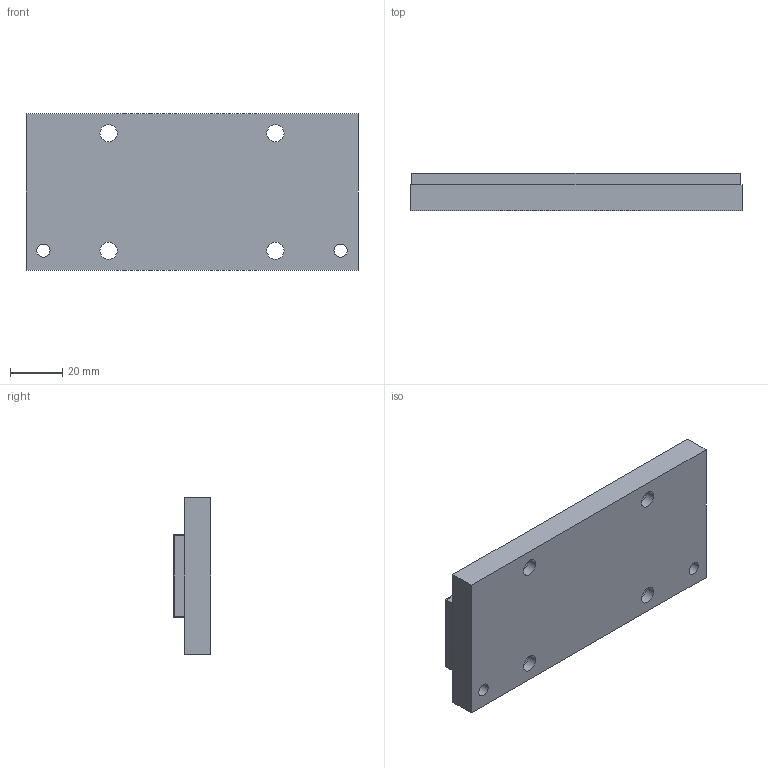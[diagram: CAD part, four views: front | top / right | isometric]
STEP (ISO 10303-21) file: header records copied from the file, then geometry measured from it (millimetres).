
FILE_DESCRIPTION((''),'2;1');
FILE_NAME('MC030-0128-WC','2007-01-14T',('saurabh.singhal'),(''),'PRO/ENGINEER BY PARAMETRIC TECHNOLOGY CORPORATION, 2005450','PRO/ENGINEER BY PARAMETRIC TECHNOLOGY CORPORATION, 2005450','');
FILE_SCHEMA(('CONFIG_CONTROL_DESIGN'));
Length unit declared in the file: millimetre
Products named in the file (1): MC030-0128-WC
Bounding box: 127.3 x 14.4 x 60 mm (x, y, z)
Volume: 88336.2 mm3; surface area: 33157.1 mm2
Topology: 1 solids, 1 shells, 78 faces, 192 edges, 128 vertices
Faces by surface type: plane 58, cylinder 20
Entity records: 2362 total; most frequent: CARTESIAN_POINT 398, DIRECTION 388, ORIENTED_EDGE 384, EDGE_CURVE 192, VECTOR 152, LINE 152, VERTEX_POINT 128, AXIS2_PLACEMENT_3D 118
